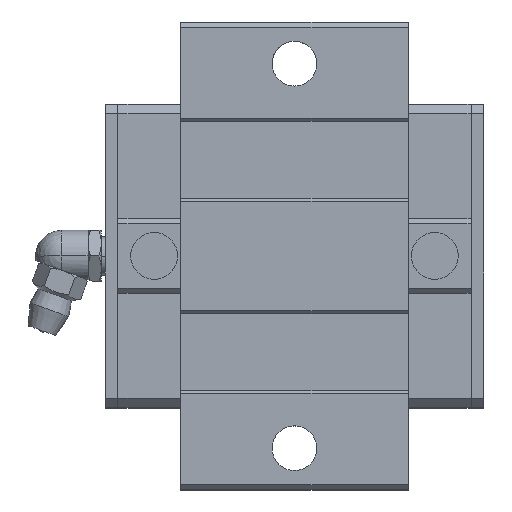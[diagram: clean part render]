
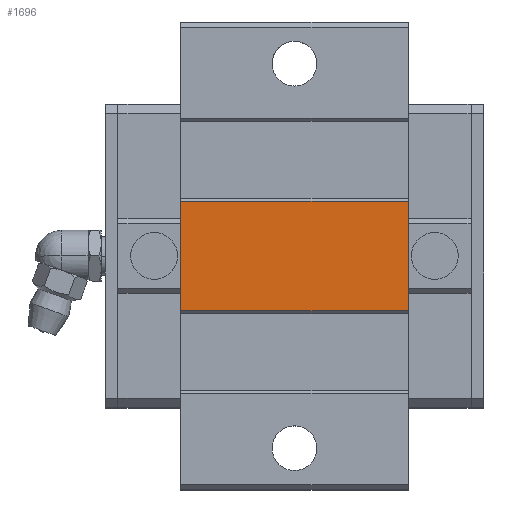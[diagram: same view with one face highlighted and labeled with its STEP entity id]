
A CAD part, top view. The second image highlights one B-rep face of the part: STEP entity #1696.
In plain terms, the highlighted planar face has unit normal (0, 0, 1).
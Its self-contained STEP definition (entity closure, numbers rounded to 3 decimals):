
#1635=CARTESIAN_POINT('POINT109',(47.3,8.55,
   26.8));
#1636=VERTEX_POINT('VERTEX109',#1635);
#1644=CARTESIAN_POINT('POINT110',(11.8,8.55,
   26.8));
#1645=VERTEX_POINT('VERTEX110',#1644);
#1652=CARTESIAN_POINT('POS199',(11.8,8.55,
   26.8));
#1653=DIRECTION('DIR296',(1.,0.,0.));
#1654=VECTOR('VEC102',#1653,1.);
#1655=LINE('STRAIGHT102',#1652,#1654);
#1656=EDGE_CURVE('EDGE160',#1645,#1636,#1655,.T.);
#1666=CARTESIAN_POINT('POINT111',(47.3,-8.55,26.8));
#1667=VERTEX_POINT('VERTEX111',#1666);
#1668=CARTESIAN_POINT('POS201',(47.3,8.55,
   26.8));
#1669=DIRECTION('DIR299',(0.,1.,0.));
#1670=VECTOR('VEC103',#1669,1.);
#1671=LINE('STRAIGHT103',#1668,#1670);
#1672=EDGE_CURVE('EDGE161',#1667,#1636,#1671,.T.);
#1673=ORIENTED_EDGE('COEDGE228',*,*,#1672,.T.);
#1674=ORIENTED_EDGE('COEDGE229',*,*,#1656,.F.);
#1675=CARTESIAN_POINT('POINT112',(11.8,-8.55,26.8));
#1676=VERTEX_POINT('VERTEX112',#1675);
#1677=CARTESIAN_POINT('POS202',(11.8,0.,26.8));
#1678=DIRECTION('DIR300',(0.,-1.,0.));
#1679=VECTOR('VEC104',#1678,1.);
#1680=LINE('STRAIGHT104',#1677,#1679);
#1681=EDGE_CURVE('EDGE162',#1645,#1676,#1680,.T.);
#1682=ORIENTED_EDGE('COEDGE230',*,*,#1681,.T.);
#1683=CARTESIAN_POINT('POS203',(11.8,-8.55,26.8));
#1684=DIRECTION('DIR301',(1.,0.,0.));
#1685=VECTOR('VEC105',#1684,1.);
#1686=LINE('STRAIGHT105',#1683,#1685);
#1687=EDGE_CURVE('EDGE163',#1676,#1667,#1686,.T.);
#1688=ORIENTED_EDGE('COEDGE231',*,*,#1687,.T.);
#1689=EDGE_LOOP('NONE',(#1673,#1674,#1682,#1688));
#1690=FACE_BOUND('LOOP1',#1689,.T.);
#1691=CARTESIAN_POINT('POS204',(11.8,0.,26.8));
#1692=DIRECTION('DIR302',(0.,0.,1.));
#1693=DIRECTION('DIR303',(1.,0.,0.));
#1694=AXIS2_PLACEMENT_3D('AXIS99',#1691,#1692,#1693);
#1695=PLANE('PLANE27',#1694);
#1696=ADVANCED_FACE('FACE53',(#1690),#1695,.T.);
